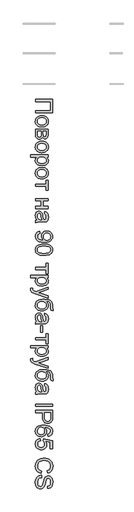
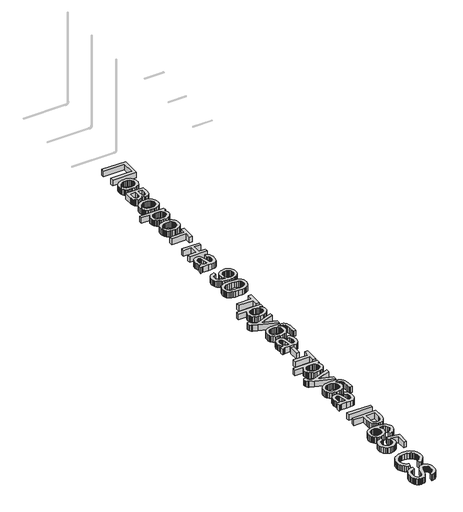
# One storey, part 19 of 33: 1 proxy.
"""IFC4 building model written with IfcOpenShell, lengths in millimetres."""

from ifc_helpers import new_model, si_unit, origin, origin_with_axes, place, context, project, spatial, polyline, outline, extrude, element, save

model = new_model("IFC4")

# Units and contexts
model_context = context("Model", 3, world=origin())
ifc_project = project(units=[si_unit("LENGTHUNIT", "METRE", prefix="MILLI")], contexts=[model_context])

# Site, building, storey
site = spatial("IfcSite", under=ifc_project)
building = spatial("IfcBuilding", under=site)
storey = spatial("IfcBuildingStorey", under=building, Name="Уровень 1", Elevation=0.0)

# Proxy
placement = place(None, origin())
element("IfcBuildingElementProxy", 1, Name="Надпись на модели 1", ObjectType="Надпись на модели 1", at=placement, inside=storey, context=model_context, shape_type="SweptSolid", body=[
    extrude(outline(polyline([(32215.2318032, -566.9517531), (32215.2318032, -1028.4902146), (31624.4625724, -1028.4902146), (31624.4625724, -954.6440607), (32141.3856493, -954.6440607), (32141.3856493, -640.7979069), (31624.4625724, -640.7979069), (31624.4625724, -566.9517531), (32215.2318032, -566.9517531)])), origin_with_axes(), (0.0, 0.0, 1.0), 150.0),
    extrude(outline(polyline([(31841.3856493, -1130.0286761), (31897.5725484, -1134.0220656), (31945.9890147, -1146.0022338), (31986.6350484, -1165.9691809), (32019.5106493, -1193.9229069), (32040.5232695, -1222.0659357), (32055.5322839, -1253.1296377), (32064.5376926, -1287.1140127), (32067.5394955, -1324.0190607), (32063.8841469, -1364.7597458), (32052.9181012, -1401.5971857), (32034.6413585, -1434.5313805), (32009.0539186, -1463.56233), (31977.0211662, -1487.256741), (31939.4084859, -1504.1813204), (31896.2158777, -1514.336068), (31847.4433416, -1517.7209838), (31807.9150964, -1516.2245896), (31772.8399762, -1511.7354069), (31742.2179811, -1504.2534357), (31716.0491109, -1493.7786761), (31693.445445, -1480.4418372), (31673.5190628, -1464.3736281), (31656.2699642, -1445.5740487), (31641.6981493, -1424.0430992), (31630.1191229, -1400.6191208), (31621.8483897, -1376.140455), (31616.8859498, -1350.6071016), (31615.2318032, -1324.0190607), (31618.8736301, -1282.6834237), (31629.7991109, -1245.5034357), (31648.0082455, -1212.4790968), (31673.5010339, -1183.6104069), (31705.8447839, -1160.1683997), (31744.6068032, -1143.4241088), (31789.7870916, -1133.3775343), (31841.3856493, -1130.0286761)]), holes=[polyline([(31841.5298801, -1203.87483), (31805.71107, -1206.0112482), (31774.6969474, -1212.4205031), (31748.4875123, -1223.1025944), (31727.0827647, -1238.0575223), (31710.4556613, -1256.2486281), (31698.5791589, -1276.6392531), (31691.4532575, -1299.2293973), (31689.077957, -1324.0190607), (31691.4667791, -1348.6825223), (31698.6332455, -1371.1825223), (31710.5773561, -1391.5190607), (31727.2991109, -1409.6921377), (31748.9156974, -1424.6470656), (31775.5443032, -1435.3291569), (31807.1849282, -1441.7384117), (31843.8375724, -1443.87483), (31878.5205652, -1441.7248901), (31908.7233897, -1435.2750704), (31934.446046, -1424.5253708), (31955.6885339, -1409.4757915), (31972.3156373, -1391.2351064), (31984.1921397, -1370.9120896), (31991.3180412, -1348.506741), (31993.6933416, -1324.0190607), (31991.3270556, -1299.2293973), (31984.2281974, -1276.6392531), (31972.3967671, -1256.2486281), (31955.8327647, -1238.0575223), (31934.4911181, -1223.1025944), (31908.3267551, -1212.4205031), (31877.3396758, -1206.0112482), (31841.5298801, -1203.87483)])]), origin_with_axes(), (0.0, 0.0, 1.0), 150.0),
    extrude(outline(polyline([(32058.3087262, -1600.7979069), (32058.3087262, -1763.4902146), (32055.8387743, -1815.7918973), (32048.4289186, -1852.6969454), (32034.4385339, -1879.8483877), (32012.2269955, -1902.8892531), (31983.2906974, -1918.6284357), (31949.1260339, -1923.87483), (31921.5959859, -1920.7017531), (31897.8519955, -1911.1825223), (31877.7858897, -1895.28108), (31861.2894955, -1872.9613684), (31845.9469474, -1900.2930992), (31821.265457, -1922.5767531), (31789.1921397, -1937.3964646), (31751.6741109, -1942.3363684), (31721.4487503, -1938.2348059), (31695.3880532, -1929.8243492), (31673.4920195, -1917.1049982), (31655.7606493, -1900.0767531), (31642.0677407, -1878.7125704), (31632.2870916, -1852.9854069), (31626.4187022, -1822.8952627), (31624.4625724, -1788.4421377), (31624.4625724, -1600.7979069), (32058.3087262, -1600.7979069)]), holes=[polyline([(31698.3087262, -1674.6440607), (31698.3087262, -1765.2209838), (31701.6440628, -1814.5839646), (31711.6500724, -1845.5575223), (31719.5331854, -1855.1578829), (31729.8411782, -1862.1801184), (31757.7318032, -1868.4902146), (31776.2113705, -1865.3351665), (31793.2846878, -1855.8700223), (31806.6440628, -1841.3387723), (31813.9818032, -1822.9854069), (31818.3087262, -1758.0094454), (31818.3087262, -1674.6440607), (31698.3087262, -1674.6440607)]), polyline([(31892.1548801, -1674.6440607), (31892.1548801, -1747.62483), (31895.9048801, -1807.8411761), (31901.5298801, -1823.3459838), (31910.9048801, -1837.1200223), (31923.3087262, -1846.8015127), (31938.0202647, -1850.0286761), (31950.0184618, -1848.6134117), (31960.0515147, -1844.3676184), (31968.1194234, -1837.2912963), (31974.2221878, -1827.3844454), (31981.9024762, -1796.6993492), (31984.4625724, -1749.9325223), (31984.4625724, -1674.6440607), (31892.1548801, -1674.6440607)])]), origin_with_axes(), (0.0, 0.0, 1.0), 150.0),
    extrude(outline(polyline([(31841.3856493, -2016.1825223), (31897.5725484, -2020.1759117), (31945.9890147, -2032.15608), (31986.6350484, -2052.1230271), (32019.5106493, -2080.0767531), (32040.5232695, -2108.2197819), (32055.5322839, -2139.2834838), (32064.5376926, -2173.2678588), (32067.5394955, -2210.1729069), (32063.8841469, -2250.913592), (32052.9181012, -2287.7510319), (32034.6413585, -2320.6852266), (32009.0539186, -2349.7161761), (31977.0211662, -2373.4105872), (31939.4084859, -2390.3351665), (31896.2158777, -2400.4899141), (31847.4433416, -2403.87483), (31807.9150964, -2402.3784357), (31772.8399762, -2397.8892531), (31742.2179811, -2390.4072819), (31716.0491109, -2379.9325223), (31693.445445, -2366.5956833), (31673.5190628, -2350.5274742), (31656.2699642, -2331.7278949), (31641.6981493, -2310.1969454), (31630.1191229, -2286.772967), (31621.8483897, -2262.2943011), (31616.8859498, -2236.7609478), (31615.2318032, -2210.1729069), (31618.8736301, -2168.8372699), (31629.7991109, -2131.6572819), (31648.0082455, -2098.632943), (31673.5010339, -2069.7642531), (31705.8447839, -2046.3222458), (31744.6068032, -2029.577955), (31789.7870916, -2019.5313805), (31841.3856493, -2016.1825223)]), holes=[polyline([(31841.5298801, -2090.0286761), (31805.71107, -2092.1650944), (31774.6969474, -2098.5743492), (31748.4875123, -2109.2564406), (31727.0827647, -2124.2113684), (31710.4556613, -2142.4024742), (31698.5791589, -2162.7930992), (31691.4532575, -2185.3832434), (31689.077957, -2210.1729069), (31691.4667791, -2234.8363684), (31698.6332455, -2257.3363684), (31710.5773561, -2277.6729069), (31727.2991109, -2295.8459838), (31748.9156974, -2310.8009117), (31775.5443032, -2321.4830031), (31807.1849282, -2327.8922579), (31843.8375724, -2330.0286761), (31878.5205652, -2327.8787362), (31908.7233897, -2321.4289165), (31934.446046, -2310.679217), (31955.6885339, -2295.6296377), (31972.3156373, -2277.3889526), (31984.1921397, -2257.0659357), (31991.3180412, -2234.6605872), (31993.6933416, -2210.1729069), (31991.3270556, -2185.3832434), (31984.2281974, -2162.7930992), (31972.3967671, -2142.4024742), (31955.8327647, -2124.2113684), (31934.4911181, -2109.2564406), (31908.3267551, -2098.5743492), (31877.3396758, -2092.1650944), (31841.5298801, -2090.0286761)])]), origin_with_axes(), (0.0, 0.0, 1.0), 150.0),
    extrude(outline(polyline([(31458.3087262, -2486.9517531), (32058.3087262, -2486.9517531), (32058.3087262, -2560.7979069), (31985.9048801, -2560.7979069), (32021.6200243, -2584.8844454), (32047.1308416, -2611.8555992), (32062.437332, -2643.2979069), (32067.5394955, -2680.7979069), (32065.7546397, -2706.5521136), (32060.4000724, -2730.7378107), (32051.4757936, -2753.3549982), (32038.9818032, -2774.4036761), (32023.2426205, -2793.4241088), (32004.5827647, -2809.9565607), (31983.0022359, -2824.0010319), (31958.5010339, -2835.5575223), (31904.0899762, -2851.0262723), (31844.702957, -2856.1825223), (31781.5479089, -2850.359205), (31752.4718873, -2843.0800583), (31725.0635339, -2832.8892531), (31700.0394955, -2819.9265127), (31678.1164186, -2804.3315607), (31659.2943032, -2786.1043973), (31643.5731493, -2765.2450223), (31631.1738104, -2742.7765728), (31622.3171397, -2719.7221857), (31617.0031373, -2696.0818612), (31615.2318032, -2671.8555992), (31619.9733897, -2637.9072819), (31634.1981493, -2607.6007915), (31655.6705051, -2581.6572819), (31682.1548801, -2560.7979069), (31458.3087262, -2560.7979069), (31458.3087262, -2486.9517531)]), holes=[polyline([(31837.9241109, -2560.7979069), (31802.3351686, -2562.7946016), (31771.7221878, -2568.7846857), (31746.0851686, -2578.7681593), (31725.4241109, -2592.7450223), (31709.5226686, -2609.570443), (31698.1644955, -2628.0995896), (31691.3495916, -2648.3324622), (31689.077957, -2670.2690607), (31691.4307214, -2692.5211641), (31698.4890147, -2713.1236281), (31710.2528368, -2732.0764526), (31726.7221878, -2749.3796377), (31748.1314426, -2763.7982074), (31774.7149762, -2774.0971857), (31806.4727887, -2780.2765728), (31843.4048801, -2782.3363684), (31878.687332, -2780.3261521), (31909.2462262, -2774.2955031), (31935.0815628, -2764.2444213), (31956.1933416, -2750.1729069), (31972.5995916, -2733.3069213), (31984.3183416, -2714.8724261), (31991.3495916, -2694.8694213), (31993.6933416, -2673.2979069), (31991.2008537, -2651.7940006), (31983.7233897, -2631.5611281), (31971.2609498, -2612.5992891), (31953.8135339, -2594.9084838), (31931.6155171, -2579.9851064), (31904.9012743, -2569.3255511), (31873.6708056, -2562.929818), (31837.9241109, -2560.7979069)])]), origin_with_axes(), (0.0, 0.0, 1.0), 150.0),
    extrude(outline(polyline([(31841.3856493, -2920.7979069), (31897.5725484, -2924.7912963), (31945.9890147, -2936.7714646), (31986.6350484, -2956.7384117), (32019.5106493, -2984.6921377), (32040.5232695, -3012.8351665), (32055.5322839, -3043.8988684), (32064.5376926, -3077.8832434), (32067.5394955, -3114.7882915), (32063.8841469, -3155.5289766), (32052.9181012, -3192.3664165), (32034.6413585, -3225.3006112), (32009.0539186, -3254.3315607), (31977.0211662, -3278.0259718), (31939.4084859, -3294.9505511), (31896.2158777, -3305.1052987), (31847.4433416, -3308.4902146), (31807.9150964, -3306.9938204), (31772.8399762, -3302.5046377), (31742.2179811, -3295.0226665), (31716.0491109, -3284.5479069), (31693.445445, -3271.211068), (31673.5190628, -3255.1428588), (31656.2699642, -3236.3432795), (31641.6981493, -3214.81233), (31630.1191229, -3191.3883516), (31621.8483897, -3166.9096857), (31616.8859498, -3141.3763324), (31615.2318032, -3114.7882915), (31618.8736301, -3073.4526545), (31629.7991109, -3036.2726665), (31648.0082455, -3003.2483276), (31673.5010339, -2974.3796377), (31705.8447839, -2950.9376305), (31744.6068032, -2934.1933396), (31789.7870916, -2924.1467651), (31841.3856493, -2920.7979069)]), holes=[polyline([(31841.5298801, -2994.6440607), (31805.71107, -2996.780479), (31774.6969474, -3003.1897338), (31748.4875123, -3013.8718252), (31727.0827647, -3028.8267531), (31710.4556613, -3047.0178588), (31698.5791589, -3067.4084838), (31691.4532575, -3089.9986281), (31689.077957, -3114.7882915), (31691.4667791, -3139.4517531), (31698.6332455, -3161.9517531), (31710.5773561, -3182.2882915), (31727.2991109, -3200.4613684), (31748.9156974, -3215.4162963), (31775.5443032, -3226.0983877), (31807.1849282, -3232.5076425), (31843.8375724, -3234.6440607), (31878.5205652, -3232.4941208), (31908.7233897, -3226.0443011), (31934.446046, -3215.2946016), (31955.6885339, -3200.2450223), (31972.3156373, -3182.0043372), (31984.1921397, -3161.6813204), (31991.3180412, -3139.2759718), (31993.6933416, -3114.7882915), (31991.3270556, -3089.9986281), (31984.2281974, -3067.4084838), (31972.3967671, -3047.0178588), (31955.8327647, -3028.8267531), (31934.4911181, -3013.8718252), (31908.3267551, -3003.1897338), (31877.3396758, -2996.780479), (31841.5298801, -2994.6440607)])]), origin_with_axes(), (0.0, 0.0, 1.0), 150.0),
    extrude(outline(polyline([(32058.3087262, -3354.6440607), (32058.3087262, -3705.4132915), (31984.4625724, -3705.4132915), (31984.4625724, -3566.9517531), (31624.4625724, -3566.9517531), (31624.4625724, -3493.1055992), (31984.4625724, -3493.1055992), (31984.4625724, -3354.6440607), (32058.3087262, -3354.6440607)])), origin_with_axes(), (0.0, 0.0, 1.0), 150.0),
    extrude(outline(polyline([(32058.3087262, -4000.7979069), (32058.3087262, -4074.6440607), (31892.1548801, -4074.6440607), (31892.1548801, -4268.4902146), (32058.3087262, -4268.4902146), (32058.3087262, -4342.3363684), (31624.4625724, -4342.3363684), (31624.4625724, -4268.4902146), (31818.3087262, -4268.4902146), (31818.3087262, -4074.6440607), (31624.4625724, -4074.6440607), (31624.4625724, -4000.7979069), (32058.3087262, -4000.7979069)])), origin_with_axes(), (0.0, 0.0, 1.0), 150.0),
    extrude(outline(polyline([(31679.8471878, -4730.0286761), (31649.5947839, -4694.7462242), (31629.7991109, -4658.4180992), (31618.8736301, -4620.2149742), (31615.2318032, -4579.3075223), (31617.422308, -4546.4274141), (31623.9938224, -4517.5947819), (31634.9463464, -4492.8096256), (31650.2798801, -4472.0719454), (31669.0208657, -4455.6972458), (31690.1957455, -4444.0010319), (31713.8045195, -4436.9833035), (31739.8471878, -4434.6440607), (31770.4601686, -4438.1777146), (31798.2606493, -4448.7786761), (31822.0587262, -4465.1308396), (31840.6644955, -4485.9180992), (31854.7269955, -4510.3471857), (31864.8952647, -4537.62483), (31876.0010339, -4601.5190607), (31887.6837262, -4677.0238684), (31901.3856493, -4729.5959838), (31917.827957, -4730.0286761), (31950.7846878, -4724.9445415), (31962.9902166, -4718.5893732), (31972.3471878, -4709.6921377), (31981.6861301, -4694.3135319), (31988.3568032, -4675.5815607), (31993.6933416, -4628.0575223), (31990.1416589, -4584.0671377), (31979.4866109, -4553.3459838), (31959.781082, -4532.3964646), (31929.077957, -4517.7209838), (31938.3087262, -4443.87483), (31978.6933416, -4456.6933396), (32010.4241109, -4475.8219454), (32034.6909378, -4503.0455031), (32052.6837262, -4540.1488684), (32063.8255532, -4585.5274742), (32067.5394955, -4637.5767531), (32064.2582455, -4687.4986281), (32054.4144955, -4727.0719454), (32039.6128128, -4756.9096857), (32021.4577647, -4777.62483), (31999.0118512, -4791.3628107), (31971.3375724, -4800.2690607), (31906.7221878, -4803.87483), (31814.8471878, -4803.87483), (31686.5539186, -4807.62483), (31654.8411782, -4813.1777146), (31624.4625724, -4822.3363684), (31624.4625724, -4748.4902146), (31650.1356493, -4736.6632915), (31679.8471878, -4730.0286761)]), holes=[polyline([(31827.5394955, -4730.0286761), (31815.2438224, -4680.4132915), (31804.8952647, -4610.8940607), (31792.9241109, -4547.3604069), (31784.7390147, -4530.827955), (31773.452957, -4518.5863684), (31759.9313224, -4511.0142531), (31745.0394955, -4508.4902146), (31723.0803609, -4513.9890127), (31705.0875724, -4530.4854069), (31693.0803609, -4557.6188204), (31689.077957, -4595.0286761), (31693.4950243, -4634.6921377), (31706.7462262, -4669.7402146), (31726.2714666, -4698.1536761), (31749.5106493, -4717.9132915), (31773.452957, -4726.6753107), (31806.6260339, -4729.5959838), (31827.5394955, -4730.0286761)])]), origin_with_axes(), (0.0, 0.0, 1.0), 150.0),
    extrude(outline(polyline([(31772.1548801, -5126.9517531), (31781.3856493, -5200.7979069), (31739.468582, -5213.4180992), (31723.5265748, -5222.702955), (31710.9289186, -5233.9709838), (31701.3691229, -5247.0959838), (31694.5406974, -5261.9517531), (31689.077957, -5296.8555992), (31692.593582, -5328.171705), (31703.140457, -5356.6392531), (31719.5647359, -5380.2930992), (31740.7125724, -5397.1680992), (31768.5130532, -5409.9505511), (31804.8952647, -5421.3267531), (31846.6500724, -5429.3315607), (31890.5683416, -5431.99983), (31904.9914186, -5431.5671377), (31873.765457, -5405.984205), (31849.0298801, -5372.5046377), (31832.9120916, -5333.5443011), (31827.5394955, -5291.5190607), (31830.8207455, -5256.4394333), (31840.6644955, -5224.1813204), (31857.0707455, -5194.7447218), (31880.0394955, -5168.1296377), (31908.3718272, -5146.0758516), (31940.8688224, -5130.3231473), (31977.5304811, -5120.8715247), (32018.3568032, -5117.7209838), (32060.5443032, -5121.0247699), (32098.4048801, -5130.9361281), (32131.9385339, -5147.4550583), (32161.1452647, -5170.5815607), (32184.8081253, -5198.6840247), (32201.7101686, -5230.1308396), (32211.8513945, -5264.9220055), (32215.2318032, -5303.0575223), (32213.3027166, -5331.2140728), (32207.515457, -5358.1356473), (32197.8700243, -5383.8222458), (32184.3664186, -5408.2738684), (32167.2931012, -5430.6747098), (32146.9385339, -5450.2089646), (32123.3027166, -5466.8766329), (32096.3856493, -5480.6777146), (32064.6368512, -5491.4995295), (32026.5058416, -5499.2293973), (31981.9926205, -5503.867318), (31931.0971878, -5505.4132915), (31877.6461662, -5503.8718252), (31829.937332, -5499.2474261), (31787.9706854, -5491.5400944), (31751.7462262, -5480.74983), (31720.3805412, -5466.9171978), (31692.9902166, -5450.0827627), (31669.5752527, -5430.2465247), (31650.1356493, -5407.4084838), (31634.8652166, -5382.0283756), (31623.9577647, -5354.5659357), (31617.4132936, -5325.0211641), (31615.2318032, -5293.3940607), (31617.805421, -5260.2299982), (31625.5262743, -5230.2570415), (31638.3943633, -5203.4751906), (31656.4096878, -5179.8844454), (31679.085469, -5160.0797579), (31705.9349282, -5144.65608), (31736.9580652, -5133.6134117), (31772.1548801, -5126.9517531)]), holes=[polyline([(32020.0875724, -5431.5671377), (32046.5539186, -5429.5749502), (32070.1356493, -5423.5983877), (32090.8327647, -5413.6374502), (32108.6452647, -5399.6921377), (32122.969183, -5382.4475463), (32133.2005532, -5362.5887723), (32139.3393753, -5340.1158156), (32141.3856493, -5315.0286761), (32139.1816229, -5289.1392531), (32132.5695436, -5265.7017531), (32121.5494113, -5244.7161761), (32106.1212262, -5226.1825223), (32087.1864306, -5211.0382915), (32065.6464666, -5200.2209838), (32041.5013344, -5193.7305992), (32014.7510339, -5191.5671377), (31990.7591469, -5193.6134117), (31969.1200243, -5199.7522338), (31949.8336662, -5209.983604), (31932.9000724, -5224.3075223), (31919.1125123, -5242.1290367), (31909.2642551, -5262.8531954), (31903.3553008, -5286.4799982), (31901.3856493, -5313.0094454), (31903.3553008, -5337.7495295), (31909.2642551, -5360.1909357), (31919.1125123, -5380.3336641), (31932.9000724, -5398.1777146), (31950.1671998, -5412.7855872), (31970.4541589, -5423.2197819), (31993.7609498, -5429.4802987), (32020.0875724, -5431.5671377)])]), origin_with_axes(), (0.0, 0.0, 1.0), 150.0),
    extrude(outline(polyline([(31915.0875724, -5570.0286761), (32009.6488705, -5575.4553588), (32049.7495315, -5582.2387122), (32085.0635339, -5591.7354069), (32115.8793392, -5603.9048781), (32142.4854089, -5618.7065607), (32164.8817431, -5636.140455), (32183.0683416, -5656.2065607), (32197.1398561, -5678.9724862), (32207.1909378, -5704.5058396), (32213.2215868, -5732.8066208), (32215.2318032, -5763.87483), (32210.4721878, -5809.3796377), (32196.1933416, -5850.12483), (32172.9541589, -5884.1993492), (32141.3135339, -5909.6921377), (32101.5418993, -5928.9469454), (32053.9096878, -5944.3075223), (31993.4229089, -5954.3676184), (31915.0875724, -5957.7209838), (31821.0671397, -5952.3483877), (31781.101695, -5945.6326425), (31745.8327647, -5936.2305992), (31715.0034378, -5924.1557795), (31688.3568032, -5909.421705), (31665.8928609, -5892.0283756), (31647.6116109, -5871.9757915), (31633.445445, -5849.1828228), (31623.3267551, -5823.5683396), (31617.2555412, -5795.132342), (31615.2318032, -5763.87483), (31618.7474282, -5723.2017531), (31629.2943032, -5687.1440607), (31646.8724282, -5655.7017531), (31671.4818032, -5628.87483), (31715.9679811, -5603.1296377), (31771.3976686, -5584.7402146), (31837.7708657, -5573.7065607), (31915.0875724, -5570.0286761)]), holes=[polyline([(31915.2318032, -5643.87483), (31851.0355892, -5646.0382915), (31799.0719474, -5652.5286761), (31759.3408777, -5663.3459838), (31731.8423801, -5678.4902146), (31713.132945, -5696.8075223), (31699.7690628, -5717.1440607), (31691.7507335, -5739.49983), (31689.077957, -5763.87483), (31691.7597479, -5788.24983), (31699.8051205, -5810.6055992), (31713.2140748, -5830.9421377), (31731.9866109, -5849.2594454), (31759.5301806, -5864.4036761), (31799.2522359, -5875.2209838), (31851.1527767, -5881.7113684), (31915.2318032, -5883.87483), (31977.7287984, -5881.7834838), (32028.7774762, -5875.5094454), (32068.3778368, -5865.0527146), (32096.5298801, -5850.4132915), (32116.1542791, -5832.4024742), (32130.171707, -5811.8315607), (32138.5821637, -5788.7005511), (32141.3856493, -5763.0094454), (32138.9156974, -5738.7606473), (32131.5058416, -5716.7834838), (32119.156082, -5697.077955), (32101.8664186, -5679.6440607), (32071.2173801, -5663.9950223), (32029.8952647, -5652.8171377), (31977.9000724, -5646.1104069), (31915.2318032, -5643.87483)])]), origin_with_axes(), (0.0, 0.0, 1.0), 150.0),
    extrude(outline(polyline([(32058.3087262, -6234.6440607), (32058.3087262, -6585.4132915), (31984.4625724, -6585.4132915), (31984.4625724, -6446.9517531), (31624.4625724, -6446.9517531), (31624.4625724, -6373.1055992), (31984.4625724, -6373.1055992), (31984.4625724, -6234.6440607), (32058.3087262, -6234.6440607)])), origin_with_axes(), (0.0, 0.0, 1.0), 150.0),
    extrude(outline(polyline([(31458.3087262, -6650.0286761), (32058.3087262, -6650.0286761), (32058.3087262, -6723.87483), (31985.9048801, -6723.87483), (32021.6200243, -6747.9613684), (32047.1308416, -6774.9325223), (32062.437332, -6806.37483), (32067.5394955, -6843.87483), (32065.7546397, -6869.6290367), (32060.4000724, -6893.8147338), (32051.4757936, -6916.4319213), (32038.9818032, -6937.4805992), (32023.2426205, -6956.5010319), (32004.5827647, -6973.0334838), (31983.0022359, -6987.077955), (31958.5010339, -6998.6344454), (31904.0899762, -7014.1031954), (31844.702957, -7019.2594454), (31781.5479089, -7013.4361281), (31752.4718873, -7006.1569814), (31725.0635339, -6995.9661761), (31700.0394955, -6983.0034357), (31678.1164186, -6967.4084838), (31659.2943032, -6949.1813204), (31643.5731493, -6928.3219454), (31631.1738104, -6905.8534958), (31622.3171397, -6882.7991088), (31617.0031373, -6859.1587843), (31615.2318032, -6834.9325223), (31619.9733897, -6800.984205), (31634.1981493, -6770.6777146), (31655.6705051, -6744.734205), (31682.1548801, -6723.87483), (31458.3087262, -6723.87483), (31458.3087262, -6650.0286761)]), holes=[polyline([(31837.9241109, -6723.87483), (31802.3351686, -6725.8715247), (31771.7221878, -6731.8616088), (31746.0851686, -6741.8450824), (31725.4241109, -6755.8219454), (31709.5226686, -6772.647366), (31698.1644955, -6791.1765127), (31691.3495916, -6811.4093853), (31689.077957, -6833.3459838), (31691.4307214, -6855.5980872), (31698.4890147, -6876.2005511), (31710.2528368, -6895.1533756), (31726.7221878, -6912.4565607), (31748.1314426, -6926.8751305), (31774.7149762, -6937.1741088), (31806.4727887, -6943.3534958), (31843.4048801, -6945.4132915), (31878.687332, -6943.4030752), (31909.2462262, -6937.3724261), (31935.0815628, -6927.3213444), (31956.1933416, -6913.24983), (31972.5995916, -6896.3838444), (31984.3183416, -6877.9493492), (31991.3495916, -6857.9463444), (31993.6933416, -6836.37483), (31991.2008537, -6814.8709237), (31983.7233897, -6794.6380511), (31971.2609498, -6775.6762122), (31953.8135339, -6757.9854069), (31931.6155171, -6743.0620295), (31904.9012743, -6732.4024742), (31873.6708056, -6726.006741), (31837.9241109, -6723.87483)])]), origin_with_axes(), (0.0, 0.0, 1.0), 150.0),
    extrude(outline(polyline([(31458.3087262, -7102.3363684), (31529.4144955, -7093.1055992), (31522.9241109, -7130.6055992), (31524.9613705, -7150.3291569), (31531.0731493, -7165.6536761), (31540.8267551, -7177.5887723), (31553.7894955, -7187.1440607), (31608.1644955, -7207.3363684), (31626.0491109, -7213.1055992), (32058.3087262, -7056.1825223), (32058.3087262, -7134.0671377), (31817.4433416, -7217.2882915), (31721.0971878, -7246.2786761), (31806.1933416, -7275.2690607), (32058.3087262, -7360.7979069), (32058.3087262, -7438.1055992), (31614.077957, -7287.0959838), (31517.7318032, -7247.8652146), (31486.9745916, -7227.78108), (31465.6644955, -7205.0286761), (31453.2245916, -7178.5983877), (31449.077957, -7147.4805992), (31451.3856493, -7126.0983877), (31458.3087262, -7102.3363684)])), origin_with_axes(), (0.0, 0.0, 1.0), 150.0),
    extrude(outline(polyline([(32224.4625724, -7803.87483), (32224.4625724, -7868.4902146), (32189.3604089, -7861.4950223), (32166.8423801, -7849.4517531), (32153.5190628, -7832.7570415), (32146.0010339, -7811.8075223), (32142.5394955, -7777.6608877), (32141.3856493, -7721.37483), (32137.1308416, -7646.2846857), (32131.812332, -7619.3811401), (32124.3664186, -7599.5719454), (32114.5767551, -7584.4547579), (32102.2269955, -7571.6272338), (32087.3171397, -7561.0893732), (32069.8471878, -7552.8411761), (32026.9745916, -7541.7894934), (31973.3568032, -7537.0479069), (32014.6068032, -7566.7414165), (32044.0298801, -7601.0142531), (32061.6620916, -7639.9024742), (32067.5394955, -7683.4421377), (32063.8030171, -7723.6735079), (32052.593582, -7760.28108), (32033.9111902, -7793.264854), (32007.7558416, -7822.62483), (31975.227296, -7846.7293973), (31937.4253128, -7863.9469454), (31894.3498921, -7874.2774742), (31846.0010339, -7877.7209838), (31809.0148561, -7876.0127506), (31775.5082455, -7870.8880511), (31745.4812022, -7862.3468853), (31718.9337262, -7850.3892531), (31674.9613705, -7820.515455), (31642.2750724, -7785.5575223), (31630.4436421, -7765.1128107), (31621.9926205, -7741.2786761), (31616.9220075, -7714.0551184), (31615.2318032, -7683.4421377), (31617.4087863, -7648.0289766), (31623.9397359, -7616.7894934), (31634.8246517, -7589.7236881), (31650.0635339, -7566.8315607), (31668.6963464, -7547.2387122), (31689.7630532, -7530.0707434), (31713.2636541, -7515.3276545), (31739.1981493, -7503.0094454), (31771.3841469, -7493.2918973), (31813.6392551, -7486.3507915), (31865.9634738, -7482.1861281), (31928.3568032, -7480.7979069), (32006.1107094, -7484.3000103), (32070.0455051, -7494.8063204), (32120.1611902, -7512.3168372), (32140.0368663, -7523.6986731), (32156.4577647, -7536.8315607), (32182.1714065, -7568.6119093), (32200.5382936, -7607.9193011), (32211.5584258, -7654.7537362), (32215.2318032, -7709.1152146), (32216.890457, -7791.3267531), (32219.6128128, -7799.3676184), (32224.4625724, -7803.87483)]), holes=[polyline([(31848.3087262, -7803.87483), (31878.8090267, -7801.8736281), (31906.4156974, -7795.8700223), (31931.1287383, -7785.8640127), (31952.9481493, -7771.8555992), (31970.774171, -7754.2053588), (31983.5070436, -7733.2738684), (31991.1467671, -7709.0611281), (31993.6933416, -7681.5671377), (31991.0025363, -7652.874229), (31982.9301205, -7627.6608877), (31969.476094, -7605.9271136), (31950.640457, -7587.6729069), (31927.3066229, -7573.2227867), (31900.3580051, -7562.9012723), (31869.7946037, -7556.7083636), (31835.6164186, -7554.6440607), (31802.1503729, -7556.9247098), (31772.8580051, -7563.7666569), (31747.7393152, -7575.1699021), (31726.7943032, -7591.1344454), (31710.2934017, -7610.4433396), (31698.5070436, -7631.8796377), (31691.4352287, -7655.4433396), (31689.077957, -7681.1344454), (31691.80482, -7707.1771136), (31699.9854089, -7730.6416569), (31713.6197238, -7751.5280752), (31732.7077647, -7769.8363684), (31756.2940027, -7784.7281954), (31783.4229089, -7795.3652146), (31814.0944835, -7801.7474261), (31848.3087262, -7803.87483)])]), origin_with_axes(), (0.0, 0.0, 1.0), 150.0),
    extrude(outline(polyline([(31679.8471878, -8246.9517531), (31649.5947839, -8211.6693011), (31629.7991109, -8175.3411761), (31618.8736301, -8137.1380511), (31615.2318032, -8096.2305992), (31617.422308, -8063.350491), (31623.9938224, -8034.5178588), (31634.9463464, -8009.7327026), (31650.2798801, -7988.9950223), (31669.0208657, -7972.6203228), (31690.1957455, -7960.9241088), (31713.8045195, -7953.9063805), (31739.8471878, -7951.5671377), (31770.4601686, -7955.1007915), (31798.2606493, -7965.7017531), (31822.0587262, -7982.0539165), (31840.6644955, -8002.8411761), (31854.7269955, -8027.2702627), (31864.8952647, -8054.5479069), (31876.0010339, -8118.4421377), (31887.6837262, -8193.9469454), (31901.3856493, -8246.5190607), (31917.827957, -8246.9517531), (31950.7846878, -8241.8676184), (31962.9902166, -8235.5124502), (31972.3471878, -8226.6152146), (31981.6861301, -8211.2366088), (31988.3568032, -8192.5046377), (31993.6933416, -8144.9805992), (31990.1416589, -8100.9902146), (31979.4866109, -8070.2690607), (31959.781082, -8049.3195415), (31929.077957, -8034.6440607), (31938.3087262, -7960.7979069), (31978.6933416, -7973.6164165), (32010.4241109, -7992.7450223), (32034.6909378, -8019.96858), (32052.6837262, -8057.0719454), (32063.8255532, -8102.4505511), (32067.5394955, -8154.49983), (32064.2582455, -8204.421705), (32054.4144955, -8243.9950223), (32039.6128128, -8273.8327627), (32021.4577647, -8294.5479069), (31999.0118512, -8308.2858877), (31971.3375724, -8317.1921377), (31906.7221878, -8320.7979069), (31814.8471878, -8320.7979069), (31686.5539186, -8324.5479069), (31654.8411782, -8330.1007915), (31624.4625724, -8339.2594454), (31624.4625724, -8265.4132915), (31650.1356493, -8253.5863684), (31679.8471878, -8246.9517531)]), holes=[polyline([(31827.5394955, -8246.9517531), (31815.2438224, -8197.3363684), (31804.8952647, -8127.8171377), (31792.9241109, -8064.2834838), (31784.7390147, -8047.7510319), (31773.452957, -8035.5094454), (31759.9313224, -8027.93733), (31745.0394955, -8025.4132915), (31723.0803609, -8030.9120896), (31705.0875724, -8047.4084838), (31693.0803609, -8074.5418973), (31689.077957, -8111.9517531), (31693.4950243, -8151.6152146), (31706.7462262, -8186.6632915), (31726.2714666, -8215.0767531), (31749.5106493, -8234.8363684), (31773.452957, -8243.5983877), (31806.6260339, -8246.5190607), (31827.5394955, -8246.9517531)])]), origin_with_axes(), (0.0, 0.0, 1.0), 150.0),
    extrude(outline(polyline([(31799.8471878, -8385.4132915), (31873.6933416, -8385.4132915), (31873.6933416, -8616.1825223), (31799.8471878, -8616.1825223), (31799.8471878, -8385.4132915)])), origin_with_axes(), (0.0, 0.0, 1.0), 150.0),
    extrude(outline(polyline([(32058.3087262, -8662.3363684), (32058.3087262, -9013.1055992), (31984.4625724, -9013.1055992), (31984.4625724, -8874.6440607), (31624.4625724, -8874.6440607), (31624.4625724, -8800.7979069), (31984.4625724, -8800.7979069), (31984.4625724, -8662.3363684), (32058.3087262, -8662.3363684)])), origin_with_axes(), (0.0, 0.0, 1.0), 150.0),
    extrude(outline(polyline([(31458.3087262, -9077.7209838), (32058.3087262, -9077.7209838), (32058.3087262, -9151.5671377), (31985.9048801, -9151.5671377), (32021.6200243, -9175.6536761), (32047.1308416, -9202.62483), (32062.437332, -9234.0671377), (32067.5394955, -9271.5671377), (32065.7546397, -9297.3213444), (32060.4000724, -9321.5070415), (32051.4757936, -9344.124229), (32038.9818032, -9365.1729069), (32023.2426205, -9384.1933396), (32004.5827647, -9400.7257915), (31983.0022359, -9414.7702627), (31958.5010339, -9426.3267531), (31904.0899762, -9441.7955031), (31844.702957, -9446.9517531), (31781.5479089, -9441.1284357), (31752.4718873, -9433.8492891), (31725.0635339, -9423.6584838), (31700.0394955, -9410.6957434), (31678.1164186, -9395.1007915), (31659.2943032, -9376.8736281), (31643.5731493, -9356.0142531), (31631.1738104, -9333.5458035), (31622.3171397, -9310.4914165), (31617.0031373, -9286.851092), (31615.2318032, -9262.62483), (31619.9733897, -9228.6765127), (31634.1981493, -9198.3700223), (31655.6705051, -9172.4265127), (31682.1548801, -9151.5671377), (31458.3087262, -9151.5671377), (31458.3087262, -9077.7209838)]), holes=[polyline([(31837.9241109, -9151.5671377), (31802.3351686, -9153.5638324), (31771.7221878, -9159.5539165), (31746.0851686, -9169.5373901), (31725.4241109, -9183.5142531), (31709.5226686, -9200.3396737), (31698.1644955, -9218.8688204), (31691.3495916, -9239.101693), (31689.077957, -9261.0382915), (31691.4307214, -9283.2903949), (31698.4890147, -9303.8928588), (31710.2528368, -9322.8456833), (31726.7221878, -9340.1488684), (31748.1314426, -9354.5674381), (31774.7149762, -9364.8664165), (31806.4727887, -9371.0458035), (31843.4048801, -9373.1055992), (31878.687332, -9371.0953829), (31909.2462262, -9365.0647338), (31935.0815628, -9355.0136521), (31956.1933416, -9340.9421377), (31972.5995916, -9324.0761521), (31984.3183416, -9305.6416569), (31991.3495916, -9285.6386521), (31993.6933416, -9264.0671377), (31991.2008537, -9242.5632314), (31983.7233897, -9222.3303588), (31971.2609498, -9203.3685199), (31953.8135339, -9185.6777146), (31931.6155171, -9170.7543372), (31904.9012743, -9160.0947819), (31873.6708056, -9153.6990487), (31837.9241109, -9151.5671377)])]), origin_with_axes(), (0.0, 0.0, 1.0), 150.0),
    extrude(outline(polyline([(31458.3087262, -9530.0286761), (31529.4144955, -9520.7979069), (31522.9241109, -9558.2979069), (31524.9613705, -9578.0214646), (31531.0731493, -9593.3459838), (31540.8267551, -9605.28108), (31553.7894955, -9614.8363684), (31608.1644955, -9635.0286761), (31626.0491109, -9640.7979069), (32058.3087262, -9483.87483), (32058.3087262, -9561.7594454), (31817.4433416, -9644.9805992), (31721.0971878, -9673.9709838), (31806.1933416, -9702.9613684), (32058.3087262, -9788.4902146), (32058.3087262, -9865.7979069), (31614.077957, -9714.7882915), (31517.7318032, -9675.5575223), (31486.9745916, -9655.4733877), (31465.6644955, -9632.7209838), (31453.2245916, -9606.2906954), (31449.077957, -9575.1729069), (31451.3856493, -9553.7906954), (31458.3087262, -9530.0286761)])), origin_with_axes(), (0.0, 0.0, 1.0), 150.0),
    extrude(outline(polyline([(32224.4625724, -10231.5671377), (32224.4625724, -10296.1825223), (32189.3604089, -10289.18733), (32166.8423801, -10277.1440607), (32153.5190628, -10260.4493492), (32146.0010339, -10239.49983), (32142.5394955, -10205.3531954), (32141.3856493, -10149.0671377), (32137.1308416, -10073.9769934), (32131.812332, -10047.0734478), (32124.3664186, -10027.2642531), (32114.5767551, -10012.1470656), (32102.2269955, -9999.3195415), (32087.3171397, -9988.7816809), (32069.8471878, -9980.5334838), (32026.9745916, -9969.4818011), (31973.3568032, -9964.7402146), (32014.6068032, -9994.4337242), (32044.0298801, -10028.7065607), (32061.6620916, -10067.5947819), (32067.5394955, -10111.1344454), (32063.8030171, -10151.3658156), (32052.593582, -10187.9733877), (32033.9111902, -10220.9571617), (32007.7558416, -10250.3171377), (31975.227296, -10274.421705), (31937.4253128, -10291.6392531), (31894.3498921, -10301.9697819), (31846.0010339, -10305.4132915), (31809.0148561, -10303.7050583), (31775.5082455, -10298.5803588), (31745.4812022, -10290.039193), (31718.9337262, -10278.0815607), (31674.9613705, -10248.2077627), (31642.2750724, -10213.24983), (31630.4436421, -10192.8051184), (31621.9926205, -10168.9709838), (31616.9220075, -10141.7474261), (31615.2318032, -10111.1344454), (31617.4087863, -10075.7212843), (31623.9397359, -10044.4818011), (31634.8246517, -10017.4159958), (31650.0635339, -9994.5238684), (31668.6963464, -9974.9310199), (31689.7630532, -9957.7630511), (31713.2636541, -9943.0199622), (31739.1981493, -9930.7017531), (31771.3841469, -9920.984205), (31813.6392551, -9914.0430992), (31865.9634738, -9909.8784357), (31928.3568032, -9908.4902146), (32006.1107094, -9911.992318), (32070.0455051, -9922.4986281), (32120.1611902, -9940.0091449), (32140.0368663, -9951.3909808), (32156.4577647, -9964.5238684), (32182.1714065, -9996.304217), (32200.5382936, -10035.6116088), (32211.5584258, -10082.4460439), (32215.2318032, -10136.8075223), (32216.890457, -10219.0190607), (32219.6128128, -10227.0599261), (32224.4625724, -10231.5671377)]), holes=[polyline([(31848.3087262, -10231.5671377), (31878.8090267, -10229.5659357), (31906.4156974, -10223.56233), (31931.1287383, -10213.5563204), (31952.9481493, -10199.5479069), (31970.774171, -10181.8976665), (31983.5070436, -10160.9661761), (31991.1467671, -10136.7534357), (31993.6933416, -10109.2594454), (31991.0025363, -10080.5665367), (31982.9301205, -10055.3531954), (31969.476094, -10033.6194213), (31950.640457, -10015.3652146), (31927.3066229, -10000.9150944), (31900.3580051, -9990.59358), (31869.7946037, -9984.4006713), (31835.6164186, -9982.3363684), (31802.1503729, -9984.6170175), (31772.8580051, -9991.4589646), (31747.7393152, -10002.8622098), (31726.7943032, -10018.8267531), (31710.2934017, -10038.1356473), (31698.5070436, -10059.5719454), (31691.4352287, -10083.1356473), (31689.077957, -10108.8267531), (31691.80482, -10134.8694213), (31699.9854089, -10158.3339646), (31713.6197238, -10179.2203829), (31732.7077647, -10197.5286761), (31756.2940027, -10212.4205031), (31783.4229089, -10223.0575223), (31814.0944835, -10229.4397338), (31848.3087262, -10231.5671377)])]), origin_with_axes(), (0.0, 0.0, 1.0), 150.0),
    extrude(outline(polyline([(31679.8471878, -10674.6440607), (31649.5947839, -10639.3616088), (31629.7991109, -10603.0334838), (31618.8736301, -10564.8303588), (31615.2318032, -10523.9229069), (31617.422308, -10491.0427987), (31623.9938224, -10462.2101665), (31634.9463464, -10437.4250103), (31650.2798801, -10416.68733), (31669.0208657, -10400.3126305), (31690.1957455, -10388.6164165), (31713.8045195, -10381.5986881), (31739.8471878, -10379.2594454), (31770.4601686, -10382.7930992), (31798.2606493, -10393.3940607), (31822.0587262, -10409.7462242), (31840.6644955, -10430.5334838), (31854.7269955, -10454.9625704), (31864.8952647, -10482.2402146), (31876.0010339, -10546.1344454), (31887.6837262, -10621.6392531), (31901.3856493, -10674.2113684), (31917.827957, -10674.6440607), (31950.7846878, -10669.5599261), (31962.9902166, -10663.2047579), (31972.3471878, -10654.3075223), (31981.6861301, -10638.9289165), (31988.3568032, -10620.1969454), (31993.6933416, -10572.6729069), (31990.1416589, -10528.6825223), (31979.4866109, -10497.9613684), (31959.781082, -10477.0118492), (31929.077957, -10462.3363684), (31938.3087262, -10388.4902146), (31978.6933416, -10401.3087242), (32010.4241109, -10420.43733), (32034.6909378, -10447.6608877), (32052.6837262, -10484.7642531), (32063.8255532, -10530.1428588), (32067.5394955, -10582.1921377), (32064.2582455, -10632.1140127), (32054.4144955, -10671.68733), (32039.6128128, -10701.5250704), (32021.4577647, -10722.2402146), (31999.0118512, -10735.9781954), (31971.3375724, -10744.8844454), (31906.7221878, -10748.4902146), (31814.8471878, -10748.4902146), (31686.5539186, -10752.2402146), (31654.8411782, -10757.7930992), (31624.4625724, -10766.9517531), (31624.4625724, -10693.1055992), (31650.1356493, -10681.2786761), (31679.8471878, -10674.6440607)]), holes=[polyline([(31827.5394955, -10674.6440607), (31815.2438224, -10625.0286761), (31804.8952647, -10555.5094454), (31792.9241109, -10491.9757915), (31784.7390147, -10475.4433396), (31773.452957, -10463.2017531), (31759.9313224, -10455.6296377), (31745.0394955, -10453.1055992), (31723.0803609, -10458.6043973), (31705.0875724, -10475.1007915), (31693.0803609, -10502.234205), (31689.077957, -10539.6440607), (31693.4950243, -10579.3075223), (31706.7462262, -10614.3555992), (31726.2714666, -10642.7690607), (31749.5106493, -10662.5286761), (31773.452957, -10671.2906954), (31806.6260339, -10674.2113684), (31827.5394955, -10674.6440607)])]), origin_with_axes(), (0.0, 0.0, 1.0), 150.0),
    extrude(outline(polyline([(31624.4625724, -11099.2594454), (32215.2318032, -11099.2594454), (32215.2318032, -11173.1055992), (31624.4625724, -11173.1055992), (31624.4625724, -11099.2594454)])), origin_with_axes(), (0.0, 0.0, 1.0), 150.0),
    extrude(outline(polyline([(31624.4625724, -11320.7979069), (32215.2318032, -11320.7979069), (32215.2318032, -11539.7402146), (32213.8255532, -11590.7257915), (32209.6068032, -11628.0094454), (32199.0959859, -11667.3664165), (32181.9866109, -11699.7642531), (32157.5034378, -11725.8519934), (32124.8712262, -11746.2786761), (32086.3796397, -11759.4757915), (32044.3183416, -11763.87483), (32008.0533176, -11760.9045776), (31974.6909378, -11751.9938204), (31944.2312022, -11737.1425583), (31916.6741109, -11716.3507915), (31893.8315628, -11687.8066208), (31877.515457, -11649.6981473), (31867.7257936, -11602.0253708), (31864.4625724, -11544.7882915), (31864.4625724, -11394.6440607), (31624.4625724, -11394.6440607), (31624.4625724, -11320.7979069)]), holes=[polyline([(31938.3087262, -11394.6440607), (31938.3087262, -11549.1152146), (31940.0034378, -11584.6320415), (31945.0875724, -11614.5959838), (31953.5611301, -11639.0070415), (31965.4241109, -11657.8652146), (31980.3610099, -11671.936729), (31998.0563224, -11681.9878107), (32018.5100484, -11688.0184598), (32041.7221878, -11690.0286761), (32074.8952647, -11685.2870896), (32102.8760339, -11671.06233), (32123.9337262, -11649.1212242), (32136.3375724, -11621.2305992), (32140.1236301, -11592.7450223), (32141.3856493, -11547.3844454), (32141.3856493, -11394.6440607), (31938.3087262, -11394.6440607)])]), origin_with_axes(), (0.0, 0.0, 1.0), 150.0),
    extrude(outline(polyline([(32058.3087262, -12216.1825223), (32049.077957, -12142.3363684), (32085.6765147, -12130.43733), (32110.6644955, -12114.3555992), (32124.1050003, -12098.4812002), (32133.7053609, -12080.8580031), (32139.4655772, -12061.4860079), (32141.3856493, -12040.3652146), (32136.9144955, -12006.0382915), (32123.5010339, -11973.7305992), (32095.249832, -11945.984205), (32056.3616109, -11923.3219454), (32031.5584258, -11914.4652747), (32001.3556012, -11908.015455), (31924.7510339, -11902.3363684), (31959.312332, -11931.9577627), (31983.6693032, -11967.4565607), (31998.1104089, -12006.8495896), (32002.9241109, -12048.1536761), (31999.6338464, -12083.6344454), (31989.7630532, -12116.37483), (31973.3117311, -12146.37483), (31950.2798801, -12173.6344454), (31922.0376926, -12196.2876906), (31889.9553609, -12212.46858), (31854.0328849, -12222.1771136), (31814.2702647, -12225.4132915), (31761.3916589, -12219.3195415), (31736.399171, -12211.702354), (31712.3712262, -12201.0382915), (31690.2047599, -12187.7059598), (31670.796707, -12172.0839646), (31654.1470676, -12154.1723059), (31640.2558416, -12133.9709838), (31629.3078248, -12111.9126906), (31621.4878128, -12088.4301184), (31616.7958056, -12063.5232675), (31615.2318032, -12037.1921377), (31619.3784378, -11993.1702026), (31631.8183416, -11953.4120896), (31652.5515147, -11917.9177987), (31681.577957, -11886.68733), (31720.1236301, -11861.226092), (31769.4144955, -11843.0394934), (31829.4505532, -11832.1275343), (31900.2318032, -11828.4902146), (31979.5857695, -11832.5286761), (32047.3111301, -11844.6440607), (32103.4078849, -11864.8363684), (32127.0955351, -11877.9613684), (32147.8760339, -11893.1055992), (32177.344183, -11923.7456232), (32198.3928609, -11959.2714646), (32211.0220676, -11999.6831232), (32215.2318032, -12044.9805992), (32212.6266349, -12078.9920175), (32204.8111301, -12109.7762723), (32191.7852887, -12137.3333636), (32173.5491109, -12161.6632915), (32150.7155772, -12182.1080031), (32123.8976686, -12198.0094454), (32093.0953849, -12209.3676184), (32058.3087262, -12216.1825223)]), holes=[polyline([(31815.4241109, -11902.3363684), (31782.7017551, -11906.609205), (31751.4577647, -11919.4277146), (31724.5947839, -11939.3315607), (31705.015457, -11964.8604069), (31693.062332, -11995.671705), (31689.077957, -12031.4229069), (31691.1422599, -12057.0914766), (31697.3351686, -12080.1548781), (31707.656683, -12100.6131112), (31722.1068032, -12118.4661761), (31740.0995916, -12132.9478468), (31761.0491109, -12143.2918973), (31784.9553609, -12149.4983276), (31811.8183416, -12151.5671377), (31837.6311421, -12149.5253708), (31860.5503128, -12143.4000704), (31880.5758537, -12133.1912362), (31897.7077647, -12118.8988684), (31911.4322238, -12100.991717), (31921.2354089, -12079.9385319), (31927.11732, -12055.7393131), (31929.077957, -12028.3940607), (31927.11732, -12003.0680391), (31921.2354089, -11979.734205), (31911.4322238, -11958.3925583), (31897.7077647, -11939.0430992), (31880.8012142, -11922.9839045), (31861.4517551, -11911.5130511), (31839.6593873, -11904.6305391), (31815.4241109, -11902.3363684)])]), origin_with_axes(), (0.0, 0.0, 1.0), 150.0),
    extrude(outline(polyline([(31781.3856493, -12290.0286761), (31790.6164186, -12363.87483), (31766.8769354, -12369.3916569), (31746.2834859, -12377.4325223), (31728.83607, -12387.9974261), (31714.5346878, -12401.0863684), (31703.3973681, -12416.6723059), (31695.4421397, -12434.7281954), (31690.6690027, -12455.2540367), (31689.077957, -12478.24983), (31691.2909979, -12506.37483), (31697.9301205, -12531.1825223), (31708.9953248, -12552.6729069), (31724.4866109, -12570.8459838), (31743.6377527, -12585.296104), (31765.6825243, -12595.6176184), (31790.6209258, -12601.8105271), (31818.452957, -12603.87483), (31844.7570436, -12601.9412362), (31868.140457, -12596.140455), (31888.6031974, -12586.4724862), (31906.1452647, -12572.93733), (31920.2167791, -12555.4899141), (31930.2678609, -12534.0851665), (31936.2985099, -12508.7230872), (31938.3087262, -12479.4036761), (31935.0995916, -12443.5803588), (31925.4721878, -12414.5719454), (31910.7245916, -12391.4048781), (31892.1548801, -12373.1055992), (31901.3856493, -12299.2594454), (32206.0010339, -12363.87483), (32206.0010339, -12650.0286761), (32132.1548801, -12650.0286761), (32132.1548801, -12423.5863684), (31969.4625724, -12391.99983), (31988.140457, -12418.0605271), (32001.4818032, -12444.7522338), (32009.4866109, -12472.0749502), (32012.1548801, -12500.0286761), (32008.8465868, -12535.991717), (31998.921707, -12569.0250704), (31982.3802407, -12599.1287362), (31959.2221878, -12626.3027146), (31930.8628128, -12648.7982074), (31898.7173801, -12664.8664165), (31862.7858897, -12674.507342), (31823.0683416, -12677.7209838), (31784.8111301, -12674.827354), (31749.2221878, -12666.1464646), (31716.3015147, -12651.6783156), (31686.0491109, -12631.4229069), (31655.0665387, -12600.7378107), (31632.9361301, -12564.9325223), (31619.6578849, -12524.0070415), (31615.2318032, -12477.9613684), (31618.0758537, -12439.8528949), (31626.6080051, -12405.4313204), (31640.8282575, -12374.6966449), (31660.7366109, -12347.6488684), (31685.3414787, -12325.1443612), (31713.6512743, -12308.0394934), (31745.6659979, -12296.3342651), (31781.3856493, -12290.0286761)])), origin_with_axes(), (0.0, 0.0, 1.0), 150.0),
    extrude(outline(polyline([(31834.4625724, -13416.1825223), (31815.4241109, -13490.0286761), (31769.5001325, -13475.4162963), (31729.3724282, -13455.9541569), (31695.0409979, -13431.6422579), (31666.5058416, -13402.4805992), (31644.0734498, -13369.1272338), (31628.0503128, -13332.2402146), (31618.4364306, -13291.8195415), (31615.2318032, -13247.8652146), (31617.656683, -13202.8336641), (31624.9313224, -13162.2101665), (31637.0557214, -13125.9947218), (31654.0298801, -13094.18733), (31675.6013945, -13066.3507915), (31701.5178609, -13042.0479069), (31731.7792791, -13021.2786761), (31766.3856493, -13004.0430992), (31803.8405772, -12990.507943), (31842.6476686, -12980.8399742), (31882.8069234, -12975.039193), (31924.3183416, -12973.1055992), (31968.8586061, -12975.2915968), (32010.4601686, -12981.8495896), (32049.1230291, -12992.7795776), (32084.8471878, -13008.0815607), (32117.0421998, -13027.412991), (32145.1176205, -13050.4313204), (32169.0734498, -13077.1365487), (32188.9096878, -13107.5286761), (32204.4640748, -13140.5755511), (32215.5743512, -13175.2450223), (32222.2405171, -13211.5370896), (32224.4625724, -13249.4517531), (32221.5869714, -13291.6888324), (32212.9601686, -13330.4193011), (32198.5821637, -13365.6431593), (32178.452957, -13397.3604069), (32153.1043993, -13425.0482074), (32123.0683416, -13448.1837242), (32088.3447839, -13466.7669574), (32048.9337262, -13480.7979069), (32031.3375724, -13406.9517531), (32060.3775363, -13395.3231473), (32085.1897359, -13381.3507915), (32105.774171, -13365.0346857), (32122.1308416, -13346.37483), (32134.5932815, -13325.2630511), (32143.4950243, -13301.5911761), (32148.83607, -13275.359205), (32150.6164186, -13246.5671377), (32148.6422599, -13213.4391329), (32142.7197839, -13183.1416569), (32132.8489907, -13155.6747098), (32119.0298801, -13131.0382915), (32101.8844474, -13109.5433997), (32082.0346878, -13091.5010319), (32059.4806012, -13076.9111881), (32034.2221878, -13065.7738684), (31980.171707, -13051.6572819), (31924.4625724, -13046.9517531), (31856.2414186, -13052.5226665), (31825.5923801, -13059.4863083), (31797.2510339, -13069.2354069), (31771.7807815, -13081.9277146), (31749.7450243, -13097.7209838), (31731.1437623, -13116.6152146), (31715.9769955, -13138.6104069), (31704.2086662, -13162.6383516), (31695.8027166, -13187.6308396), (31690.7591469, -13213.5878708), (31689.077957, -13240.5094454), (31691.3676205, -13272.6143131), (31698.2366109, -13302.1500704), (31709.6849282, -13329.116717), (31725.7125724, -13353.5142531), (31746.2474282, -13374.7657555), (31771.2173801, -13392.2943011), (31800.6224282, -13406.0998901), (31834.4625724, -13416.1825223)])), origin_with_axes(), (0.0, 0.0, 1.0), 150.0),
    extrude(outline(polyline([(31827.5394955, -13563.87483), (31827.5394955, -13637.7209838), (31786.5599282, -13646.1945415), (31753.6212262, -13661.5190607), (31727.4793993, -13685.4253107), (31706.890457, -13719.6440607), (31693.531082, -13761.4709838), (31689.077957, -13808.2017531), (31692.4493512, -13849.34358), (31702.5635339, -13885.3652146), (31718.5731493, -13914.5539165), (31739.6308416, -13935.1969454), (31763.8075243, -13947.4745896), (31789.1741109, -13951.5671377), (31813.8916589, -13948.5022338), (31835.2558416, -13939.3075223), (31853.4830051, -13920.6296377), (31868.7894955, -13889.1152146), (31896.9866109, -13781.5911761), (31915.6464666, -13711.0082434), (31933.4048801, -13665.8459838), (31958.2486301, -13629.0851665), (31988.3568032, -13603.0334838), (32023.0803609, -13587.5106473), (32061.7702647, -13582.3363684), (32083.7609498, -13583.9364285), (32105.0214666, -13588.7366088), (32125.5518152, -13596.7369093), (32145.3519955, -13607.93733), (32163.6152166, -13622.2116689), (32179.5346878, -13639.4337242), (32193.1104089, -13659.6034958), (32204.3423801, -13682.7209838), (32219.4325243, -13734.6801184), (32224.4625724, -13792.1921377), (32219.1981493, -13854.49983), (32203.4048801, -13909.0190607), (32191.641058, -13932.8712242), (32177.4072839, -13953.8027146), (32160.703558, -13971.8135319), (32141.5298801, -13986.9036761), (32120.4451445, -13998.9559598), (32098.0082455, -14007.8531954), (32074.219183, -14013.5953829), (32049.077957, -14016.1825223), (32049.077957, -13942.3363684), (32072.6416589, -13937.3964646), (32093.140457, -13928.7786761), (32110.5743512, -13916.4830031), (32124.9433416, -13900.5094454), (32136.1753128, -13880.5605271), (32144.1981493, -13856.3387723), (32149.0118512, -13827.8441809), (32150.6164186, -13795.0767531), (32149.0298801, -13761.2636521), (32144.2702647, -13732.3724261), (32136.3375724, -13708.4030752), (32125.2318032, -13689.3555992), (32111.8814426, -13674.8423781), (32097.2149762, -13664.4757915), (32081.2324041, -13658.2558396), (32063.9337262, -13656.1825223), (32035.5563224, -13662.0599261), (32012.7318032, -13679.6921377), (32002.5815628, -13695.8820415), (31992.3231493, -13721.37483), (31971.4818032, -13800.2690607), (31951.6861301, -13881.68733), (31934.4144955, -13930.9421377), (31907.6236301, -13973.0394934), (31891.875433, -13989.3150343), (31874.5587262, -14002.4084838), (31855.7636541, -14012.4730872), (31835.5803609, -14019.6620896), (31791.0491109, -14025.4132915), (31767.9496517, -14023.7591449), (31745.5262743, -14018.796705), (31723.7789787, -14010.5259718), (31702.7077647, -13998.9469454), (31683.1284378, -13984.2624502), (31665.8568032, -13966.6753107), (31650.8928609, -13946.1855271), (31638.2366109, -13922.7930992), (31628.1720075, -13897.178616), (31620.9830051, -13870.0226665), (31615.2318032, -13811.0863684), (31616.7822839, -13773.3114285), (31621.4337262, -13738.7366088), (31629.1861301, -13707.3619093), (31640.0394955, -13679.18733), (31654.0118512, -13654.0415968), (31671.1212262, -13631.7534357), (31691.3676205, -13612.3228468), (31714.7510339, -13595.74983), (31740.5142551, -13582.3994694), (31767.9000724, -13572.6368492), (31796.9084859, -13566.4619694), (31827.5394955, -13563.87483)])), origin_with_axes(), (0.0, 0.0, 1.0), 150.0),
])

save(model, "model.ifc")
